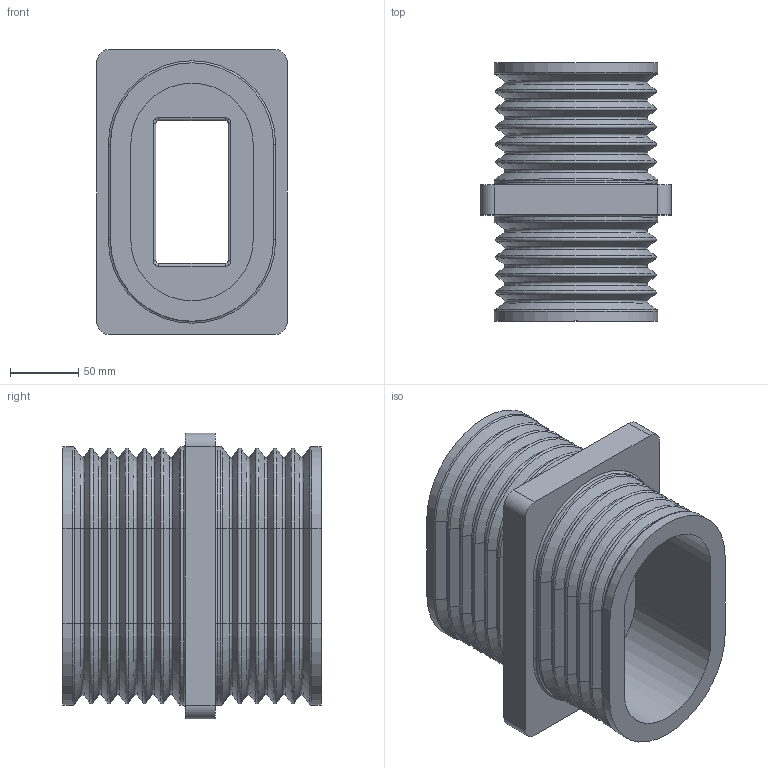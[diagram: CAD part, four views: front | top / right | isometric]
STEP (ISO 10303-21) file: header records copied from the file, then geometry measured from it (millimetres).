
FILE_DESCRIPTION(('STEP AP203'), '1');
FILE_NAME('Ä-×ÝÀÇ-5-75 ïîä âñòàâêó', '', ('UNSPECIFIED'), ('UNSPECIFIED'), 'ASCON STEP Converter 1.6', 'ASCON Math Kernel', '');
FILE_SCHEMA(('CONFIG_CONTROL_DESIGN'));
Length unit declared in the file: millimetre
Bounding box: 140 x 190 x 210 mm (x, y, z)
Volume: 1381799.9 mm3; surface area: 260689.6 mm2
Topology: 1 solids, 1 shells, 270 faces, 554 edges, 296 vertices
Faces by surface type: cylinder 86, plane 76, torus 60, cone 48
Full cylindrical faces by diameter (mm): 5.917 x2, 8.376 x4
Entity records: 9088 total; most frequent: DIRECTION 1362, CARTESIAN_POINT 1111, ORIENTED_EDGE 1088, AXIS2_PLACEMENT_3D 547, EDGE_CURVE 544, VERTEX_POINT 296, EDGE_LOOP 292, CIRCLE 276
